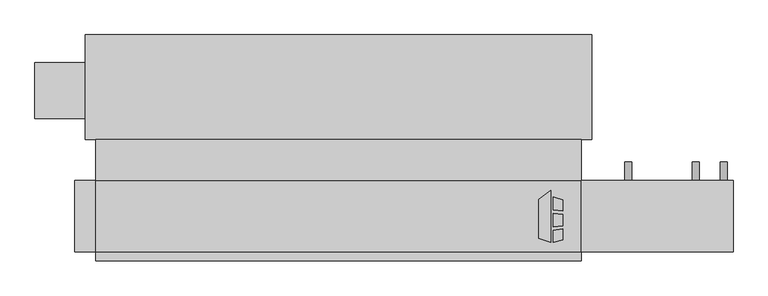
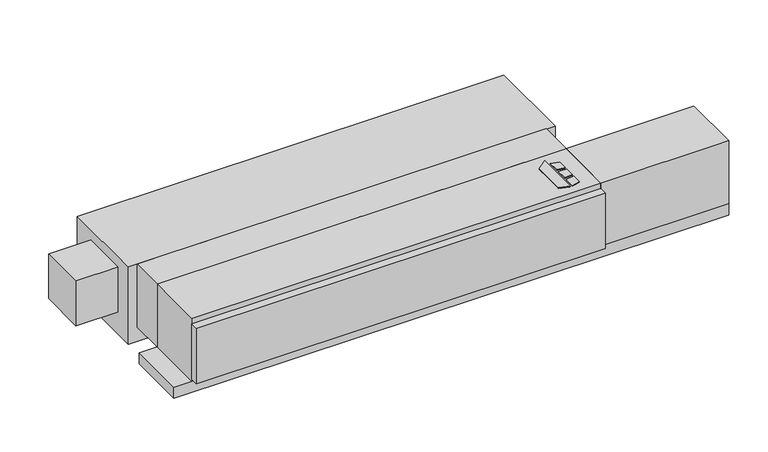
"""IFC4 building model written with IfcOpenShell, lengths in millimetres: proxy geometry, Concealed_Horizontal_Fan_Coil_Unit_With_Plenum_-_CPF_-_IEC_-_4-Pipe_RH : Size 10 - 115v/60Hz/1Ph - 4/1 Coil."""

from ifc_helpers import new_model, si_unit, point, frame, frame_2d, origin, origin_with_axes, place, context, project, spatial, polyline, circle_curve, trimmed, segment, composite_curve, outline, extrude, source, transform, mapped, element, save


def mechanical_equipment_293dd67b(model_context):
    return source(origin(), model_context, "Body", "SweptSolid", [
        extrude(outline(polyline([(696.6019761, -193.0453476), (729.1602728, -167.6080184), (729.1602728, -309.5625), (696.6019761, -299.3429201), (696.6019761, -193.0453476)])), origin_with_axes(), (0.0, 0.0, 1.0), 3.175),
        extrude(outline(polyline([(735.9186058, -220.917352), (735.9186058, -186.4374379), (762.0, -194.6240115), (762.0, -224.1197446), (735.9186058, -220.917352)])), origin_with_axes(), (0.0, 0.0, 1.0), 3.175),
        extrude(outline(polyline([(762.0, -302.5740115), (735.9186058, -309.5625), (735.9186058, -276.3411996), (762.0, -272.7993564), (762.0, -302.5740115)])), origin_with_axes(), (0.0, 0.0, 1.0), 3.175),
        extrude(outline(polyline([(762.0, -233.2013277), (762.0, -264.451483), (735.9186058, -267.192748), (735.9186058, -231.3350378), (762.0, -233.2013277)])), origin_with_axes(), (0.0, 0.0, 1.0), 3.175),
        extrude(outline(polyline([(-508.0, -30.1625), (812.8, -30.1625), (812.8, -141.2875), (-508.0, -141.2875), (-508.0, -30.1625)])), frame((0.0, 0.0, -215.9), z_axis=(0.0, 0.0, 1.0), x_axis=(1.0, 0.0, 0.0)), (0.0, 0.0, 1.0), 215.9),
        extrude(outline(composite_curve([segment(trimmed(circle_curve(frame_2d((-158.75, 1123.95)), 9.525), [point((-158.75, 1133.475))], [point((-158.75, 1114.425))], False, "CARTESIAN"), True, "CONTINUOUS"), segment(trimmed(circle_curve(frame_2d((-158.75, 1123.95)), 9.525), [point((-158.75, 1114.425))], [point((-158.75, 1133.475))], False, "CARTESIAN"), True, "CONTINUOUS")], self_intersect=False)), frame((0.0, -141.2875, 0.0), z_axis=(0.0, 1.0, 0.0), x_axis=(0.0, 0.0, 1.0)), (0.0, 0.0, 1.0), 50.8),
        extrude(outline(composite_curve([segment(trimmed(circle_curve(frame_2d((-69.85, 1123.95)), 9.525), [point((-69.85, 1133.475))], [point((-69.85, 1114.425))], False, "CARTESIAN"), True, "CONTINUOUS"), segment(trimmed(circle_curve(frame_2d((-69.85, 1123.95)), 9.525), [point((-69.85, 1114.425))], [point((-69.85, 1133.475))], False, "CARTESIAN"), True, "CONTINUOUS")], self_intersect=False)), frame((0.0, -141.2875, 0.0), z_axis=(0.0, 1.0, 0.0), x_axis=(0.0, 0.0, 1.0)), (0.0, 0.0, 1.0), 50.8),
        extrude(outline(composite_curve([segment(trimmed(circle_curve(frame_2d((-69.85, 939.8)), 9.525), [point((-69.85, 949.325))], [point((-69.85, 930.275))], False, "CARTESIAN"), True, "CONTINUOUS"), segment(trimmed(circle_curve(frame_2d((-69.85, 939.8)), 9.525), [point((-69.85, 930.275))], [point((-69.85, 949.325))], False, "CARTESIAN"), True, "CONTINUOUS")], self_intersect=False)), frame((0.0, -141.2875, 0.0), z_axis=(0.0, 1.0, 0.0), x_axis=(0.0, 0.0, 1.0)), (0.0, 0.0, 1.0), 50.8),
        extrude(outline(composite_curve([segment(trimmed(circle_curve(frame_2d((-158.75, 939.8)), 9.525), [point((-158.75, 949.325))], [point((-158.75, 930.275))], False, "CARTESIAN"), True, "CONTINUOUS"), segment(trimmed(circle_curve(frame_2d((-158.75, 939.8)), 9.525), [point((-158.75, 930.275))], [point((-158.75, 949.325))], False, "CARTESIAN"), True, "CONTINUOUS")], self_intersect=False)), frame((0.0, -141.2875, 0.0), z_axis=(0.0, 1.0, 0.0), x_axis=(0.0, 0.0, 1.0)), (0.0, 0.0, 1.0), 50.8),
        extrude(outline(polyline([(1225.55, -141.2875), (1225.55, -334.9625), (812.8, -334.9625), (812.8, -141.2875), (1225.55, -141.2875)])), frame((0.0, 0.0, -215.9), z_axis=(0.0, 0.0, 1.0), x_axis=(1.0, 0.0, 0.0)), (0.0, 0.0, 1.0), 215.9),
        extrude(outline(composite_curve([segment(trimmed(circle_curve(frame_2d((-241.3, 1200.15)), 9.525), [point((-241.3, 1190.625))], [point((-241.3, 1209.675))], False, "CARTESIAN"), True, "CONTINUOUS"), segment(trimmed(circle_curve(frame_2d((-241.3, 1200.15)), 9.525), [point((-241.3, 1209.675))], [point((-241.3, 1190.625))], False, "CARTESIAN"), True, "CONTINUOUS")], self_intersect=False)), frame((0.0, -141.2875, 0.0), z_axis=(0.0, 1.0, 0.0), x_axis=(0.0, 0.0, 1.0)), (0.0, 0.0, 1.0), 50.8),
        extrude(outline(polyline([(812.8, -334.9625), (812.8, -360.3625), (-508.0, -360.3625), (-508.0, -334.9625), (812.8, -334.9625)])), frame((0.0, 0.0, -209.55), z_axis=(0.0, 0.0, 1.0), x_axis=(1.0, 0.0, 0.0)), (0.0, 0.0, 1.0), 190.5),
        extrude(outline(polyline([(812.8, -334.9625), (-508.0, -334.9625), (-508.0, -141.2875), (812.8, -141.2875), (812.8, -334.9625)])), frame((0.0, 0.0, -215.9), z_axis=(0.0, 0.0, 1.0), x_axis=(1.0, 0.0, 0.0)), (0.0, 0.0, 1.0), 215.9),
        extrude(outline(polyline([(1225.55, -141.2875), (1225.55, -334.9625), (-565.15, -334.9625), (-565.15, -141.2875), (1225.55, -141.2875)])), frame((0.0, 0.0, -254.0), z_axis=(0.0, 0.0, 1.0), x_axis=(1.0, 0.0, 0.0)), (0.0, 0.0, 1.0), 38.1),
        extrude(outline(polyline([(-673.1, 26.9875), (-673.1, 179.3875), (-536.575, 179.3875), (-536.575, 26.9875), (-673.1, 26.9875)])), frame((0.0, 0.0, -187.325), z_axis=(0.0, 0.0, 1.0), x_axis=(1.0, 0.0, 0.0)), (0.0, 0.0, 1.0), 152.4),
        extrude(outline(polyline([(-536.575, 255.5875), (841.375, 255.5875), (841.375, -30.1625), (-536.575, -30.1625), (-536.575, 255.5875)])), frame((0.0, 0.0, -263.525), z_axis=(0.0, 0.0, 1.0), x_axis=(1.0, 0.0, 0.0)), (0.0, 0.0, 1.0), 263.525),
    ])


if __name__ == "__main__":
    model = new_model("IFC4")
    model_context = context("Model", 3, world=origin())
    ifc_project = project(units=[si_unit("LENGTHUNIT", "METRE", prefix="MILLI")], contexts=[model_context])
    site = spatial("IfcSite", under=ifc_project)
    building = spatial("IfcBuilding", under=site)
    placement = place(None, origin())
    mechanical_equipment_shape = mechanical_equipment_293dd67b(model_context)
    element("IfcBuildingElementProxy", 1, Name="Concealed_Horizontal_Fan_Coil_Unit_With_Plenum_-_CPF_-_IEC_-_4-Pipe_RH : Size 10 - 115v/60Hz/1Ph - 4/1 Coil", ObjectType="Concealed_Horizontal_Fan_Coil_Unit_With_Plenum_-_CPF_-_IEC_-_4-Pipe_RH : Size 10 - 115v/60Hz/1Ph - 4/1 Coil", at=placement, inside=building, context=model_context, shape_type="MappedRepresentation", body=[
        mapped(mechanical_equipment_shape, transform((0.0, 0.0, 0.0), x_axis=(1.0, 0.0, 0.0), y_axis=(0.0, 1.0, 0.0), z_axis=(0.0, 0.0, 1.0))),
    ])
    save(model, "model.ifc")
